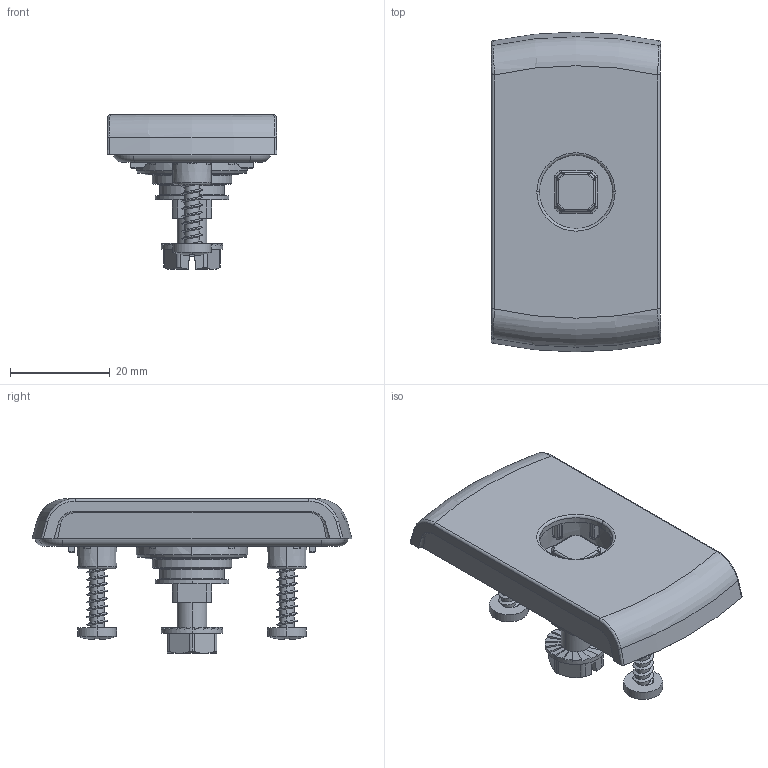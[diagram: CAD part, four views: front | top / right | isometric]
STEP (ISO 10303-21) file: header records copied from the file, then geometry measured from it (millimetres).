
FILE_DESCRIPTION (( 'STEP AP214' ), '1' );
FILE_NAME ('1B.RW120.M.STEP', '2022-02-04T07:18:46', ( '' ), ( '' ), 'SwSTEP 2.0', 'SolidWorks 2021', '' );
FILE_SCHEMA (( 'AUTOMOTIVE_DESIGN' ));
Length unit declared in the file: millimetre
Products named in the file (7): 1B.RW120.M; P.014951_01-00; DIN 7981_F.4.1x22; 2.PT.001_A; S6PZ_M6x10; DIN 3771_16x2; P.014991_01-01
Assembly tree (7 placements, depth 2):
  1B.RW120.M
    P.014991_01-01
    P.014951_01-00
    2.PT.001_A
    DIN 3771_16x2
    DIN 7981_F.4.1x22  x2
    S6PZ_M6x10
Bounding box: 34 x 64 x 30.9 mm (x, y, z)
Volume: 15087 mm3; surface area: 15185.3 mm2
Topology: 8 solids, 8 shells, 1143 faces, 2721 edges, 1617 vertices
Faces by surface type: plane 341, cylinder 235, bspline 198, torus 137, sphere 129, cone 103
Entity records: 37464 total; most frequent: CARTESIAN_POINT 14022, ORIENTED_EDGE 5080, DIRECTION 4625, EDGE_CURVE 2540, AXIS2_PLACEMENT_3D 1854, VERTEX_POINT 1497, EDGE_LOOP 1109, ADVANCED_FACE 1079
